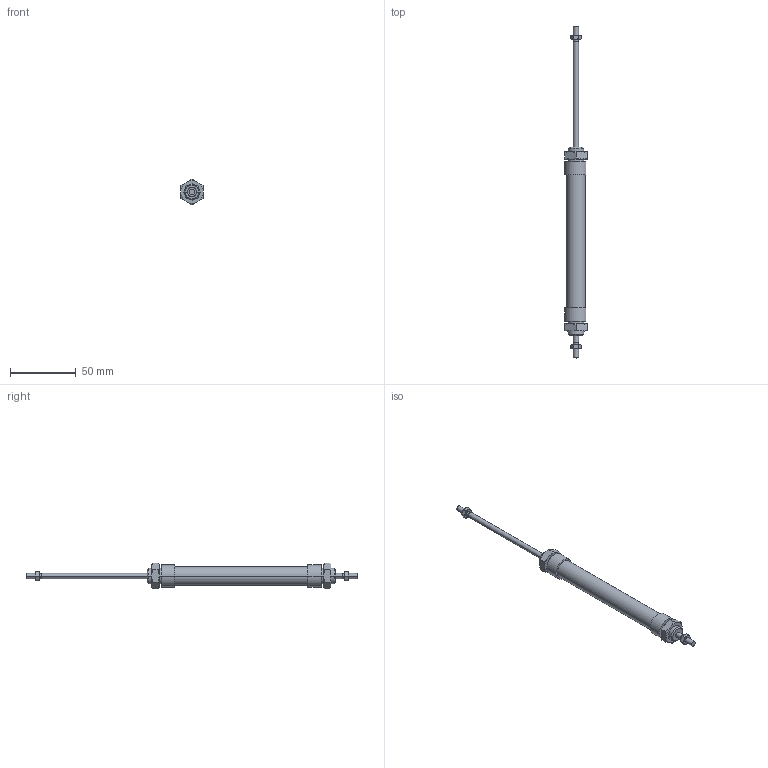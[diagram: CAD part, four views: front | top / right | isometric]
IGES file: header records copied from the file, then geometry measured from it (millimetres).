
Global section: file name: No Iges File Name specified; native system: AutoDesk Inventor R6.0; preprocessor: AutoDesk Inventor Iges Exporter R6.0; author: No Author specified; organization: No Organization specified; date: 20030403.071945; units: millimetre
Bounding box: 17 x 252 x 19.63 mm (x, y, z)
Volume: 25506.6 mm3; surface area: 13839.6 mm2
Topology: 6 solids, 6 shells, 170 faces, 356 edges, 208 vertices
Faces by surface type: cone 68, plane 46, bspline 30, cylinder 20, revolution 6
